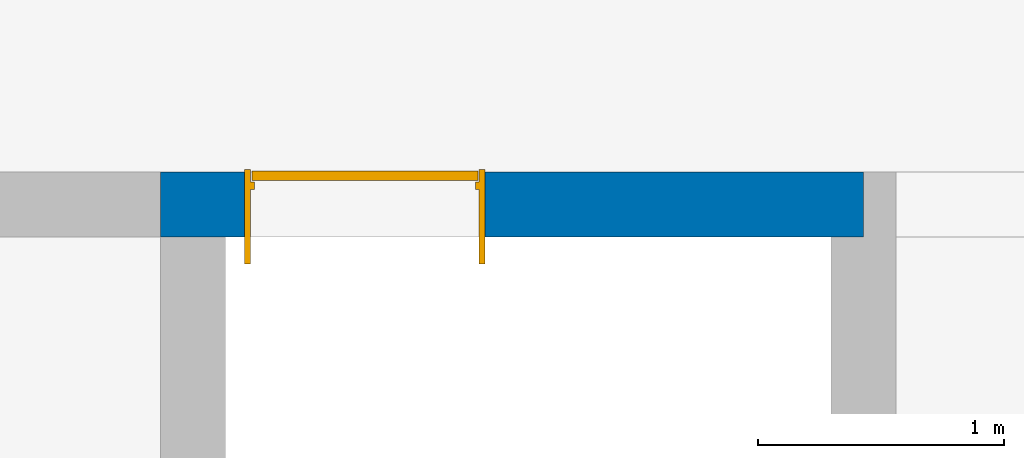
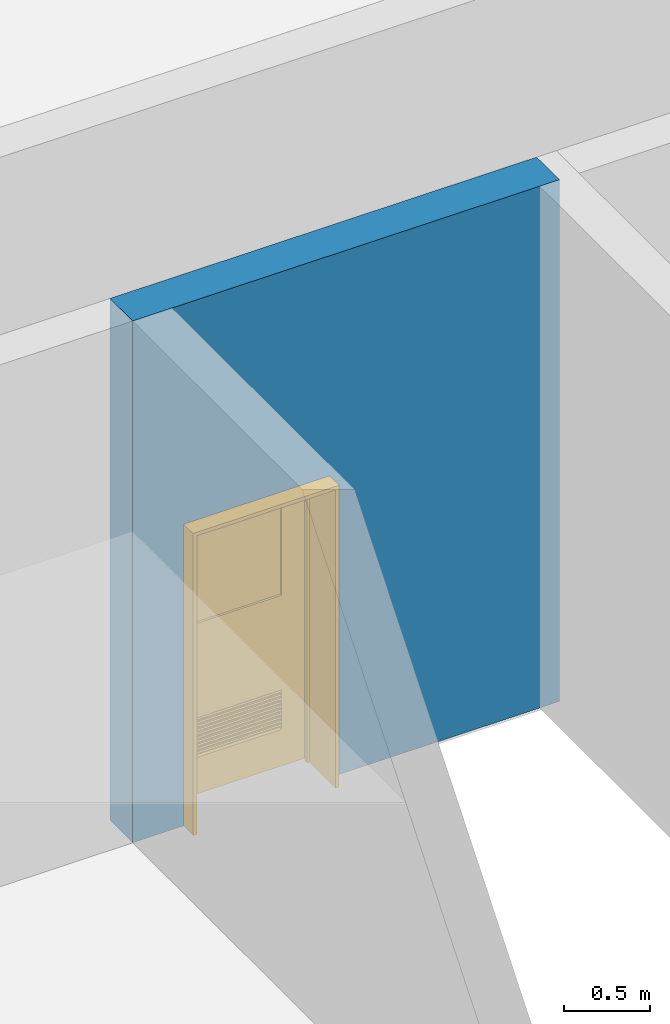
# One storey, part 5 of 15: 1 door, 1 wall, 2 openings.
"""IFC4X3 building model written with IfcOpenShell, lengths in millimetres."""

from ifc_helpers import new_model, entity, si_unit, converted_unit, derived_unit, direction, frame, frame_2d, origin, place, context, subcontext, project, spatial, rectangle, extrude, faceted_brep, source, transform, mapped, material, layer, layer_set, constituent, constituent_set, type_object, type_shapes, element, fill, save


model = new_model("IFC4X3")

# Units and contexts
model_context = context("Model", 3, precision=0.01, world=origin(), true_north=direction((6.12303176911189e-17, 1.0)))
body_context = subcontext(model_context, "Body", "Model", "MODEL_VIEW")
ifc_project = project(units=[si_unit("LENGTHUNIT", "METRE", prefix="MILLI"), si_unit("AREAUNIT", "SQUARE_METRE"), si_unit("VOLUMEUNIT", "CUBIC_METRE"), converted_unit("PLANEANGLEUNIT", "DEGREE", entity("IfcPlaneAngleMeasure", 0.0174532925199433), si_unit("PLANEANGLEUNIT", "RADIAN"), dimensions=[0, 0, 0, 0, 0, 0, 0]), si_unit("MASSUNIT", "GRAM", prefix="KILO"), derived_unit("MASSDENSITYUNIT", [(si_unit("MASSUNIT", "GRAM", prefix="KILO"), 1), (si_unit("LENGTHUNIT", "METRE"), -3)]), derived_unit("IONCONCENTRATIONUNIT", [(si_unit("MASSUNIT", "GRAM", prefix="KILO"), 1), (si_unit("LENGTHUNIT", "METRE"), -3)]), derived_unit("MOMENTOFINERTIAUNIT", [(si_unit("LENGTHUNIT", "METRE"), 4)]), si_unit("TIMEUNIT", "SECOND"), si_unit("FREQUENCYUNIT", "HERTZ"), si_unit("THERMODYNAMICTEMPERATUREUNIT", "DEGREE_CELSIUS"), derived_unit("THERMALTRANSMITTANCEUNIT", [(si_unit("MASSUNIT", "GRAM", prefix="KILO"), 1), (si_unit("THERMODYNAMICTEMPERATUREUNIT", "KELVIN"), -1), (si_unit("TIMEUNIT", "SECOND"), -3)]), derived_unit("THERMALCONDUCTANCEUNIT", [(si_unit("MASSUNIT", "GRAM", prefix="KILO"), 1), (si_unit("THERMODYNAMICTEMPERATUREUNIT", "KELVIN"), -1), (si_unit("TIMEUNIT", "SECOND"), -3), (si_unit("LENGTHUNIT", "METRE"), 1)]), derived_unit("VOLUMETRICFLOWRATEUNIT", [(si_unit("LENGTHUNIT", "METRE", prefix="DECI"), 3), (si_unit("TIMEUNIT", "SECOND"), -1)]), derived_unit("MASSFLOWRATEUNIT", [(si_unit("MASSUNIT", "GRAM", prefix="KILO"), 1), (si_unit("TIMEUNIT", "SECOND"), -1)]), derived_unit("ROTATIONALFREQUENCYUNIT", [(si_unit("TIMEUNIT", "SECOND"), -1)]), si_unit("ELECTRICCURRENTUNIT", "AMPERE"), si_unit("ELECTRICVOLTAGEUNIT", "VOLT"), si_unit("POWERUNIT", "WATT"), si_unit("FORCEUNIT", "NEWTON", prefix="KILO"), si_unit("ILLUMINANCEUNIT", "LUX"), si_unit("LUMINOUSFLUXUNIT", "LUMEN"), si_unit("LUMINOUSINTENSITYUNIT", "CANDELA"), si_unit("ENERGYUNIT", "JOULE"), derived_unit("USERDEFINED", [(si_unit("MASSUNIT", "GRAM", prefix="KILO"), -1), (si_unit("LENGTHUNIT", "METRE"), -2), (si_unit("TIMEUNIT", "SECOND"), 3), (si_unit("LUMINOUSFLUXUNIT", "LUMEN"), 1)]), derived_unit("USERDEFINED", [(si_unit("MASSUNIT", "GRAM", prefix="KILO"), 1), (si_unit("TIMEUNIT", "SECOND"), -3), (si_unit("LENGTHUNIT", "METRE"), 3), (si_unit("ELECTRICCURRENTUNIT", "AMPERE"), -2)]), derived_unit("SOUNDPOWERUNIT", [(si_unit("MASSUNIT", "GRAM", prefix="KILO"), 1), (si_unit("TIMEUNIT", "SECOND"), -3), (si_unit("LENGTHUNIT", "METRE"), 2)]), derived_unit("SOUNDPRESSUREUNIT", [(si_unit("MASSUNIT", "GRAM", prefix="KILO"), 1), (si_unit("LENGTHUNIT", "METRE"), -1), (si_unit("TIMEUNIT", "SECOND"), -2)]), derived_unit("LINEARVELOCITYUNIT", [(si_unit("LENGTHUNIT", "METRE"), 1), (si_unit("TIMEUNIT", "SECOND"), -1)]), si_unit("PRESSUREUNIT", "PASCAL"), derived_unit("USERDEFINED", [(si_unit("MASSUNIT", "GRAM", prefix="KILO"), 1), (si_unit("LENGTHUNIT", "METRE"), -2), (si_unit("TIMEUNIT", "SECOND"), -2)]), derived_unit("LINEARFORCEUNIT", [(si_unit("MASSUNIT", "GRAM", prefix="KILO"), 1), (si_unit("TIMEUNIT", "SECOND"), -2)]), derived_unit("PLANARFORCEUNIT", [(si_unit("MASSUNIT", "GRAM", prefix="KILO"), 1), (si_unit("LENGTHUNIT", "METRE"), -1), (si_unit("TIMEUNIT", "SECOND"), -2)]), derived_unit("SPECIFICHEATCAPACITYUNIT", [(si_unit("THERMODYNAMICTEMPERATUREUNIT", "KELVIN"), -1), (si_unit("LENGTHUNIT", "METRE"), 2), (si_unit("TIMEUNIT", "SECOND"), -2)]), derived_unit("HEATFLUXDENSITYUNIT", [(si_unit("MASSUNIT", "GRAM", prefix="KILO"), 1), (si_unit("TIMEUNIT", "SECOND"), -3)]), derived_unit("HEATINGVALUEUNIT", [(si_unit("LENGTHUNIT", "METRE"), 2), (si_unit("TIMEUNIT", "SECOND"), -2)]), derived_unit("VAPORPERMEABILITYUNIT", [(si_unit("LENGTHUNIT", "METRE"), -1), (si_unit("TIMEUNIT", "SECOND"), 1)]), derived_unit("DYNAMICVISCOSITYUNIT", [(si_unit("MASSUNIT", "GRAM", prefix="KILO"), 1), (si_unit("TIMEUNIT", "SECOND"), -1), (si_unit("LENGTHUNIT", "METRE"), -1)]), derived_unit("THERMALEXPANSIONCOEFFICIENTUNIT", [(si_unit("THERMODYNAMICTEMPERATUREUNIT", "KELVIN"), -1)]), derived_unit("MODULUSOFELASTICITYUNIT", [(si_unit("MASSUNIT", "GRAM", prefix="KILO"), 1), (si_unit("LENGTHUNIT", "METRE"), -1), (si_unit("TIMEUNIT", "SECOND"), -2)]), derived_unit("ISOTHERMALMOISTURECAPACITYUNIT", [(si_unit("MASSUNIT", "GRAM", prefix="KILO"), -1), (si_unit("LENGTHUNIT", "METRE"), 3)]), derived_unit("MOISTUREDIFFUSIVITYUNIT", [(si_unit("TIMEUNIT", "SECOND"), -1), (si_unit("LENGTHUNIT", "METRE"), 2)]), derived_unit("AREADENSITYUNIT", [(si_unit("MASSUNIT", "GRAM", prefix="KILO"), 1), (si_unit("LENGTHUNIT", "METRE"), 2)]), derived_unit("MASSPERLENGTHUNIT", [(si_unit("MASSUNIT", "GRAM", prefix="KILO"), 1), (si_unit("LENGTHUNIT", "METRE"), -1)]), derived_unit("THERMALRESISTANCEUNIT", [(si_unit("MASSUNIT", "GRAM", prefix="KILO"), -1), (si_unit("TIMEUNIT", "SECOND"), 3), (si_unit("THERMODYNAMICTEMPERATUREUNIT", "KELVIN"), 1)]), derived_unit("ACCELERATIONUNIT", [(si_unit("LENGTHUNIT", "METRE"), 1), (si_unit("TIMEUNIT", "SECOND"), -2)]), derived_unit("ANGULARVELOCITYUNIT", [(si_unit("TIMEUNIT", "SECOND"), -1), (si_unit("PLANEANGLEUNIT", "RADIAN"), 1)]), derived_unit("LINEARSTIFFNESSUNIT", [(si_unit("MASSUNIT", "GRAM", prefix="KILO"), 1), (si_unit("TIMEUNIT", "SECOND"), -2)]), derived_unit("WARPINGCONSTANTUNIT", [(si_unit("LENGTHUNIT", "METRE"), 6)]), derived_unit("LINEARMOMENTUNIT", [(si_unit("MASSUNIT", "GRAM", prefix="KILO"), 1), (si_unit("LENGTHUNIT", "METRE"), 1), (si_unit("TIMEUNIT", "SECOND"), -2)]), derived_unit("TORQUEUNIT", [(si_unit("MASSUNIT", "GRAM", prefix="KILO"), 1), (si_unit("LENGTHUNIT", "METRE"), 2), (si_unit("TIMEUNIT", "SECOND"), -2)])], contexts=[model_context])

# Site, building, storey
site_placement = place(None, origin())
site = spatial("IfcSite", under=ifc_project, at=site_placement, Name="Default", CompositionType="ELEMENT")
building_placement = place(site_placement, origin())
building = spatial("IfcBuilding", under=site, at=building_placement, Name="事務所ビル", CompositionType="ELEMENT")
storey_placement = place(building_placement, frame((0.0, 0.0, 4300.0)))
storey = spatial("IfcBuildingStorey", under=building, at=storey_placement, Name="2FL", CompositionType="ELEMENT", Elevation=4300.0)

# Wall, openings, door
ifc_material_1 = material(Name="せっこうボード", Category="一般")
ifc_layer_1 = layer(ifc_material_1, 15.0, Name="せっこうボード", Category="一般")
ifc_material_2 = material(Name="合板", Category="一般")
ifc_layer_2 = layer(ifc_material_2, 12.0, Name="合板", Category="一般")
ifc_material_3 = material(Name="天然木材", Category="一般")
ifc_layer_3 = layer(ifc_material_3, 210.0, Name="天然木材", Category="一般")
ifc_layer_4 = layer(ifc_material_2, 12.0, Name="合板", Category="一般")
ifc_layer_5 = layer(ifc_material_1, 15.0, Name="せっこうボード", Category="一般")
ifc_layer_set = layer_set([ifc_layer_1, ifc_layer_2, ifc_layer_3, ifc_layer_4, ifc_layer_5], Name="標準壁:GB-R15_構造用合板12_木210_構造用合板12_GB-R15")
wall_type = type_object("IfcWallType", Name="標準壁:GB-R15_構造用合板12_木210_構造用合板12_GB-R15", PredefinedType="STANDARD", material=ifc_layer_set)
wall_placement = place(storey_placement, frame((18978.0, 5460.0, 0.0)))
wall = element("IfcWall", 1, at=wall_placement, inside=storey, type_object=wall_type, material=ifc_layer_set, Name="標準壁:GB-R15_構造用合板12_木210_構造用合板12_GB-R15", ObjectType="標準壁:GB-R15_構造用合板12_木210_構造用合板12_GB-R15", PredefinedType="NOTDEFINED", context=body_context, shape_type="SweptSolid", body=[
    extrude(rectangle(XDim=2862.00000000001, YDim=264.000000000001, at=frame_2d((1431.0, 2.55795384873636e-13), x_axis=(-1.0, 0.0))), origin(), (0.0, 0.0, 1.0), 3700.0),
])
opening_1_placement = place(wall_placement, frame((-18978.0, -5460.0, 3700.0)))
element("IfcOpeningElement", 2, at=opening_1_placement, cuts=wall, Name="標準壁:GB-R15_構造用合板12_木210_構造用合板12_GB-R15", PredefinedType="OPENING", context=body_context, shape_type="SweptSolid", body=[
    extrude(rectangle(XDim=2140.0, YDim=979.999999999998, at=frame_2d((2.18847162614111e-12, 0.0), x_axis=(0.0, 1.0))), frame((19810.0, 3804.0, 1070.0), z_axis=(0.0, 1.0, 0.0), x_axis=(1.0, 0.0, 0.0)), (0.0, 0.0, 1.0), 3048.0),
])
opening_2_placement = place(wall_placement, frame((342.0, -132.0, 0.0)))
opening_2 = element("IfcOpeningElement", 3, at=opening_2_placement, cuts=wall, Name="鋼製_一般枠_片開き 1:鋼製_一般枠_片開き 1:1", PredefinedType="OPENING", context=body_context, shape_type="SweptSolid", body=[
    extrude(rectangle(XDim=2140.0, YDim=979.999999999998, at=frame_2d((1070.0, 490.0), x_axis=(-1.0, 0.0))), frame((0.0, 0.0, 0.0), z_axis=(0.0, 1.0, 0.0), x_axis=(0.0, 0.0, 1.0)), (0.0, 0.0, 1.0), 264.0),
])
ifc_material_4 = material(Name="金属 - アルミニウム", Category="未設定")
ifc_constituent_1 = constituent(ifc_material_4, Name="金属 - アルミニウム", Category="未設定")
ifc_material_5 = material(Name="塗装 - 白", Category="未設定")
ifc_constituent_2 = constituent(ifc_material_5, Name="塗装 - 白", Category="未設定")
ifc_material_6 = material(Name="ガラス", Category="ガラス")
ifc_constituent_3 = constituent(ifc_material_6, Name="ガラス", Category="ガラス")
ifc_constituent_set_1 = constituent_set(constituents=[ifc_constituent_1, ifc_constituent_2, ifc_constituent_3])
ifc_constituent_4 = constituent(ifc_material_4, Name="金属 - アルミニウム", Category="未設定")
ifc_constituent_5 = constituent(ifc_material_5, Name="パネル", Category="未設定")
ifc_constituent_6 = constituent(ifc_material_6, Name="ガラス", Category="ガラス")
ifc_constituent_7 = constituent(ifc_material_4, Name="フレーム/マリオン", Category="未設定")
ifc_constituent_set_2 = constituent_set(constituents=[ifc_constituent_4, ifc_constituent_5, ifc_constituent_6, ifc_constituent_7])
door_type = type_object("IfcDoorType", Name="鋼製_一般枠_片開き 1:鋼製_一般枠_片開き 1", OperationType="SINGLE_SWING_LEFT", ParameterTakesPrecedence=False, PredefinedType="DOOR", material=ifc_constituent_set_2)
shared_shape = source(origin(), body_context, "Body", "Brep", [
    faceted_brep([(790.0, 269.0, 493.333333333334), (790.0, 269.0, 498.333333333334), (790.0, 239.0, 513.333333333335), (790.0, 229.0, 508.333333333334), (790.0, 229.0, 503.333333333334), (790.0, 239.0, 508.333333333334), (190.0, 269.0, 493.333333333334), (190.0, 239.0, 508.333333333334), (190.0, 229.0, 503.333333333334), (190.0, 229.0, 508.333333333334), (190.0, 239.0, 513.333333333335), (190.0, 269.0, 498.333333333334)], [[[0, 1, 2, 3, 4, 5]], [[6, 7, 8, 9, 10, 11]], [[5, 7, 6, 0]], [[4, 8, 7, 5]], [[3, 9, 8, 4]], [[2, 10, 9, 3]], [[1, 11, 10, 2]], [[0, 6, 11, 1]]]),
    faceted_brep([(790.0, 269.0, 466.666666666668), (790.0, 269.0, 471.666666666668), (790.0, 239.0, 486.666666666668), (790.0, 229.0, 481.666666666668), (790.0, 229.0, 476.666666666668), (790.0, 239.0, 481.666666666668), (190.0, 269.0, 466.666666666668), (190.0, 239.0, 481.666666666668), (190.0, 229.0, 476.666666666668), (190.0, 229.0, 481.666666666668), (190.0, 239.0, 486.666666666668), (190.0, 269.0, 471.666666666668)], [[[0, 1, 2, 3, 4, 5]], [[6, 7, 8, 9, 10, 11]], [[5, 7, 6, 0]], [[4, 8, 7, 5]], [[3, 9, 8, 4]], [[2, 10, 9, 3]], [[1, 11, 10, 2]], [[0, 6, 11, 1]]]),
    faceted_brep([(790.0, 269.0, 440.0), (790.0, 269.0, 445.0), (790.0, 239.0, 460.0), (790.0, 229.0, 455.0), (790.0, 229.0, 450.0), (790.0, 239.0, 455.0), (190.0, 269.0, 440.0), (190.0, 239.0, 455.0), (190.0, 229.0, 450.0), (190.0, 229.0, 455.0), (190.0, 239.0, 460.0), (190.0, 269.0, 445.0)], [[[0, 1, 2, 3, 4, 5]], [[6, 7, 8, 9, 10, 11]], [[5, 7, 6, 0]], [[4, 8, 7, 5]], [[3, 9, 8, 4]], [[2, 10, 9, 3]], [[1, 11, 10, 2]], [[0, 6, 11, 1]]]),
    faceted_brep([(790.0, 269.0, 413.333333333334), (790.0, 269.0, 418.333333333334), (790.0, 239.0, 433.333333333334), (790.0, 229.0, 428.333333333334), (790.0, 229.0, 423.333333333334), (790.0, 239.0, 428.333333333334), (190.0, 269.0, 413.333333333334), (190.0, 239.0, 428.333333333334), (190.0, 229.0, 423.333333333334), (190.0, 229.0, 428.333333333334), (190.0, 239.0, 433.333333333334), (190.0, 269.0, 418.333333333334)], [[[0, 1, 2, 3, 4, 5]], [[6, 7, 8, 9, 10, 11]], [[5, 7, 6, 0]], [[4, 8, 7, 5]], [[3, 9, 8, 4]], [[2, 10, 9, 3]], [[1, 11, 10, 2]], [[0, 6, 11, 1]]]),
    faceted_brep([(790.0, 269.0, 386.666666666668), (790.0, 269.0, 391.666666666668), (790.0, 239.0, 406.666666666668), (790.0, 229.0, 401.666666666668), (790.0, 229.0, 396.666666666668), (790.0, 239.0, 401.666666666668), (190.0, 269.0, 386.666666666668), (190.0, 239.0, 401.666666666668), (190.0, 229.0, 396.666666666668), (190.0, 229.0, 401.666666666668), (190.0, 239.0, 406.666666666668), (190.0, 269.0, 391.666666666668)], [[[0, 1, 2, 3, 4, 5]], [[6, 7, 8, 9, 10, 11]], [[5, 7, 6, 0]], [[4, 8, 7, 5]], [[3, 9, 8, 4]], [[2, 10, 9, 3]], [[1, 11, 10, 2]], [[0, 6, 11, 1]]]),
    faceted_brep([(790.0, 269.0, 360.0), (790.0, 269.0, 365.0), (790.0, 239.0, 380.0), (790.0, 229.0, 375.0), (790.0, 229.0, 370.0), (790.0, 239.0, 375.0), (190.0, 269.0, 360.0), (190.0, 239.0, 375.0), (190.0, 229.0, 370.0), (190.0, 229.0, 375.0), (190.0, 239.0, 380.0), (190.0, 269.0, 365.0)], [[[0, 1, 2, 3, 4, 5]], [[6, 7, 8, 9, 10, 11]], [[5, 7, 6, 0]], [[4, 8, 7, 5]], [[3, 9, 8, 4]], [[2, 10, 9, 3]], [[1, 11, 10, 2]], [[0, 6, 11, 1]]]),
    faceted_brep([(790.0, 269.0, 333.333333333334), (790.0, 269.0, 338.333333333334), (790.0, 239.0, 353.333333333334), (790.0, 229.0, 348.333333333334), (790.0, 229.0, 343.333333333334), (790.0, 239.0, 348.333333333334), (190.0, 269.0, 333.333333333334), (190.0, 239.0, 348.333333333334), (190.0, 229.0, 343.333333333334), (190.0, 229.0, 348.333333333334), (190.0, 239.0, 353.333333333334), (190.0, 269.0, 338.333333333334)], [[[0, 1, 2, 3, 4, 5]], [[6, 7, 8, 9, 10, 11]], [[5, 7, 6, 0]], [[4, 8, 7, 5]], [[3, 9, 8, 4]], [[2, 10, 9, 3]], [[1, 11, 10, 2]], [[0, 6, 11, 1]]]),
    faceted_brep([(790.0, 269.0, 306.666666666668), (790.0, 269.0, 311.666666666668), (790.0, 239.0, 326.666666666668), (790.0, 229.0, 321.666666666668), (790.0, 229.0, 316.666666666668), (790.0, 239.0, 321.666666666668), (190.0, 269.0, 306.666666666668), (190.0, 239.0, 321.666666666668), (190.0, 229.0, 316.666666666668), (190.0, 229.0, 321.666666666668), (190.0, 239.0, 326.666666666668), (190.0, 269.0, 311.666666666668)], [[[0, 1, 2, 3, 4, 5]], [[6, 7, 8, 9, 10, 11]], [[5, 7, 6, 0]], [[4, 8, 7, 5]], [[3, 9, 8, 4]], [[2, 10, 9, 3]], [[1, 11, 10, 2]], [[0, 6, 11, 1]]]),
    faceted_brep([(790.0, 269.0, 520.0), (790.0, 269.0, 525.0), (790.0, 239.0, 540.0), (790.0, 229.0, 535.0), (790.0, 229.0, 530.0), (790.0, 239.0, 535.0), (190.0, 269.0, 520.0), (190.0, 239.0, 535.0), (190.0, 229.0, 530.0), (190.0, 229.0, 535.0), (190.0, 239.0, 540.0), (190.0, 269.0, 525.0)], [[[0, 1, 2, 3, 4, 5]], [[6, 7, 8, 9, 10, 11]], [[5, 7, 6, 0]], [[4, 8, 7, 5]], [[3, 9, 8, 4]], [[2, 10, 9, 3]], [[1, 11, 10, 2]], [[0, 6, 11, 1]]]),
    faceted_brep([(790.0, 269.0, 280.0), (790.0, 269.0, 285.0), (790.0, 239.0, 300.0), (790.0, 229.0, 295.0), (790.0, 229.0, 290.0), (790.0, 239.0, 295.0), (190.0, 269.0, 280.0), (190.0, 239.0, 295.0), (190.0, 229.0, 290.0), (190.0, 229.0, 295.0), (190.0, 239.0, 300.0), (190.0, 269.0, 285.0)], [[[0, 1, 2, 3, 4, 5]], [[6, 7, 8, 9, 10, 11]], [[5, 7, 6, 0]], [[4, 8, 7, 5]], [[3, 9, 8, 4]], [[2, 10, 9, 3]], [[1, 11, 10, 2]], [[0, 6, 11, 1]]]),
    faceted_brep([(800.0, 269.0, 260.0), (180.0, 269.0, 260.0), (180.0, 269.0, 560.0), (800.0, 269.0, 560.0), (790.0, 269.0, 270.0), (790.0, 269.0, 550.0), (190.0, 269.0, 550.0), (190.0, 269.0, 270.0), (800.0, 229.0, 260.0), (800.0, 229.0, 560.0), (180.0, 229.0, 560.0), (180.0, 229.0, 260.0), (790.0, 229.0, 270.0), (190.0, 229.0, 270.0), (190.0, 229.0, 550.0), (790.0, 229.0, 550.0)], [[[0, 1, 2, 3], [4, 5, 6, 7]], [[8, 9, 10, 11], [12, 13, 14, 15]], [[3, 9, 8, 0]], [[2, 10, 9, 3]], [[1, 11, 10, 2]], [[0, 8, 11, 1]], [[7, 13, 12, 4]], [[6, 14, 13, 7]], [[5, 15, 14, 6]], [[4, 12, 15, 5]]]),
    faceted_brep([(800.0, 229.0, 1210.0), (800.0, 229.0, 1960.0), (180.0, 229.0, 1960.0), (180.0, 229.0, 1210.0), (790.0, 229.0, 1220.0), (190.0, 229.0, 1220.0), (190.0, 229.0, 1950.0), (790.0, 229.0, 1950.0), (800.0, 269.0, 1210.0), (180.0, 269.0, 1210.0), (180.0, 269.0, 1960.0), (800.0, 269.0, 1960.0), (790.0, 269.0, 1220.0), (790.0, 269.0, 1950.0), (190.0, 269.0, 1950.0), (190.0, 269.0, 1220.0)], [[[0, 1, 2, 3], [4, 5, 6, 7]], [[8, 9, 10, 11], [12, 13, 14, 15]], [[1, 0, 8, 11]], [[2, 1, 11, 10]], [[3, 2, 10, 9]], [[0, 3, 9, 8]], [[5, 4, 12, 15]], [[6, 5, 15, 14]], [[7, 6, 14, 13]], [[4, 7, 13, 12]]]),
    faceted_brep([(800.0, 244.0, 1210.0), (800.0, 244.0, 1960.0), (180.0, 244.0, 1960.0), (180.0, 244.0, 1210.0), (800.0, 249.0, 1210.0), (180.0, 249.0, 1210.0), (180.0, 249.0, 1960.0), (800.0, 249.0, 1960.0)], [[[0, 1, 2, 3]], [[4, 5, 6, 7]], [[1, 0, 4, 7]], [[2, 1, 7, 6]], [[3, 2, 6, 5]], [[0, 3, 5, 4]]]),
    faceted_brep([(950.0, 229.0, 10.0), (950.0, 229.0, 2110.0), (30.0, 229.0, 2110.0), (30.0, 229.0, 10.0), (800.0, 229.0, 260.0), (180.0, 229.0, 260.0), (180.0, 229.0, 560.0), (800.0, 229.0, 560.0), (800.0, 229.0, 1210.0), (180.0, 229.0, 1210.0), (180.0, 229.0, 1960.0), (800.0, 229.0, 1960.0), (950.0, 269.0, 10.0), (30.0, 269.0, 10.0), (30.0, 269.0, 2110.0), (950.0, 269.0, 2110.0), (800.0, 269.0, 260.0), (800.0, 269.0, 560.0), (180.0, 269.0, 560.0), (180.0, 269.0, 260.0), (800.0, 269.0, 1210.0), (800.0, 269.0, 1960.0), (180.0, 269.0, 1960.0), (180.0, 269.0, 1210.0)], [[[0, 1, 2, 3], [4, 5, 6, 7], [8, 9, 10, 11]], [[12, 13, 14, 15], [16, 17, 18, 19], [20, 21, 22, 23]], [[1, 0, 12, 15]], [[2, 1, 15, 14]], [[3, 2, 14, 13]], [[0, 3, 13, 12]], [[5, 4, 16, 19]], [[6, 5, 19, 18]], [[7, 6, 18, 17]], [[4, 7, 17, 16]], [[9, 8, 20, 23]], [[10, 9, 23, 22]], [[11, 10, 22, 21]], [[8, 11, 21, 20]]]),
    faceted_brep([(955.0, 274.0, 0.0), (980.0, 274.0, 0.0), (980.0, -110.0, 0.0), (955.0, -110.0, 0.0), (955.0, 194.0, 0.0), (940.0, 194.0, 0.0), (940.0, 224.0, 0.0), (955.0, 224.0, 0.0), (955.0, 274.0, 2115.0), (25.0, 274.0, 2115.0), (25.0, 274.0, 0.0), (0.0, 274.0, 0.0), (0.0, 274.0, 2140.0), (980.0, 274.0, 2140.0), (980.0, -110.0, 2140.0), (0.0, -110.0, 2140.0), (0.0, -110.0, 0.0), (25.0, -110.0, 0.0), (25.0, -110.0, 2115.0), (955.0, -110.0, 2115.0), (955.0, 194.0, 2115.0), (25.0, 194.0, 2115.0), (25.0, 194.0, 0.0), (40.0, 194.0, 0.0), (40.0, 194.0, 2100.0), (940.0, 194.0, 2100.0), (940.0, 224.0, 2100.0), (40.0, 224.0, 2100.0), (40.0, 224.0, 0.0), (25.0, 224.0, 0.0), (25.0, 224.0, 2115.0), (955.0, 224.0, 2115.0)], [[[0, 1, 2, 3, 4, 5, 6, 7]], [[1, 0, 8, 9, 10, 11, 12, 13]], [[2, 1, 13, 14]], [[3, 2, 14, 15, 16, 17, 18, 19]], [[4, 3, 19, 20]], [[5, 4, 20, 21, 22, 23, 24, 25]], [[6, 5, 25, 26]], [[7, 6, 26, 27, 28, 29, 30, 31]], [[0, 7, 31, 8]], [[14, 13, 12, 15]], [[20, 19, 18, 21]], [[26, 25, 24, 27]], [[8, 31, 30, 9]], [[10, 29, 28, 23, 22, 17, 16, 11]], [[15, 12, 11, 16]], [[21, 18, 17, 22]], [[27, 24, 23, 28]], [[9, 30, 29, 10]]]),
])
type_shapes(door_type, [shared_shape])
door_placement = place(opening_2_placement, origin())
door = element("IfcDoor", 4, at=door_placement, inside=storey, type_object=door_type, material=ifc_constituent_set_1, Name="鋼製_一般枠_片開き 1:鋼製_一般枠_片開き 1", ObjectType="鋼製_一般枠_片開き 1:鋼製_一般枠_片開き 1", OperationType="SINGLE_SWING_LEFT", OverallHeight=2140.0, OverallWidth=980.000000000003, PredefinedType="DOOR", context=body_context, shape_type="MappedRepresentation", body=[
    mapped(shared_shape, transform((0.0, 0.0, 0.0), scale=1.0)),
])
fill(opening_2, door)

save(model, "model.ifc")
